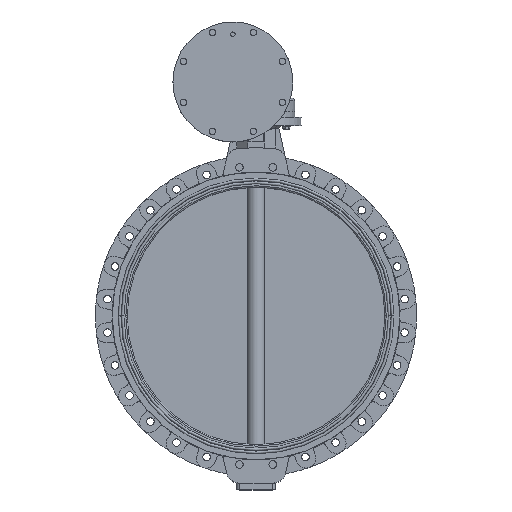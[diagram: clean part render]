
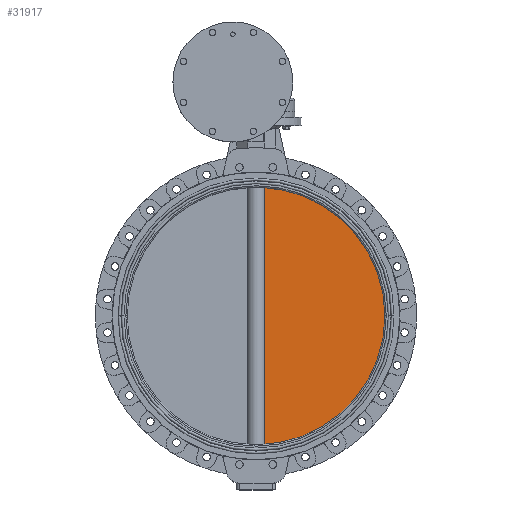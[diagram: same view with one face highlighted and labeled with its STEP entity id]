
A CAD part, top view. The second image highlights one B-rep face of the part: STEP entity #31917.
In plain terms, the highlighted planar face has unit normal (0, 0, 1).
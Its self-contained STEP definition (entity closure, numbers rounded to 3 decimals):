
#2157 = ORIENTED_EDGE ( 'NONE', *, *, #7185, .F. ) ;
#4485 = AXIS2_PLACEMENT_3D ( 'NONE', #22495, #31122, #34477 ) ;
#6521 = DIRECTION ( 'NONE',  ( -1., 0., 0. ) ) ;
#7185 = EDGE_CURVE ( 'NONE', #22564, #35658, #25325, .T. ) ;
#7564 = VECTOR ( 'NONE', #32741, 1000. ) ;
#8901 = DIRECTION ( 'NONE',  ( 0., 0., -1. ) ) ;
#9112 = CARTESIAN_POINT ( 'NONE',  ( 32.692, 880.001, 12.5 ) ) ;
#9856 = EDGE_CURVE ( 'NONE', #35658, #37161, #36291, .T. ) ;
#12598 = DIRECTION ( 'NONE',  ( 0., 0., -1. ) ) ;
#13734 = CARTESIAN_POINT ( 'NONE',  ( 500., 0., 12.5 ) ) ;
#15397 = AXIS2_PLACEMENT_3D ( 'NONE', #22533, #12598, #6521 ) ;
#17355 = LINE ( 'NONE', #27067, #7564 ) ;
#18821 = FACE_OUTER_BOUND ( 'NONE', #30220, .T. ) ;
#22214 = DIRECTION ( 'NONE',  ( -1., 0., 0. ) ) ;
#22495 = CARTESIAN_POINT ( 'NONE',  ( 0., 0., 12.5 ) ) ;
#22533 = CARTESIAN_POINT ( 'NONE',  ( 0., 0., 12.5 ) ) ;
#22564 = VERTEX_POINT ( 'NONE', #40022 ) ;
#22884 = AXIS2_PLACEMENT_3D ( 'NONE', #9112, #8901, #22214 ) ;
#23412 = ORIENTED_EDGE ( 'NONE', *, *, #33174, .T. ) ;
#23746 = ORIENTED_EDGE ( 'NONE', *, *, #9856, .F. ) ;
#25325 = CIRCLE ( 'NONE', #4485, 500. ) ;
#27067 = CARTESIAN_POINT ( 'NONE',  ( 32.692, 880.001, 12.5 ) ) ;
#27431 = CARTESIAN_POINT ( 'NONE',  ( 32.692, -498.93, 12.5 ) ) ;
#30220 = EDGE_LOOP ( 'NONE', ( #2157, #23412, #23746 ) ) ;
#31122 = DIRECTION ( 'NONE',  ( 0., 0., -1. ) ) ;
#31917 = ADVANCED_FACE ( 'NONE', ( #18821 ), #38213, .F. ) ;
#32741 = DIRECTION ( 'NONE',  ( 0., -1., 0. ) ) ;
#33174 = EDGE_CURVE ( 'NONE', #22564, #37161, #17355, .T. ) ;
#34477 = DIRECTION ( 'NONE',  ( -1., 0., 0. ) ) ;
#35658 = VERTEX_POINT ( 'NONE', #13734 ) ;
#36291 = CIRCLE ( 'NONE', #15397, 500. ) ;
#37161 = VERTEX_POINT ( 'NONE', #27431 ) ;
#38213 = PLANE ( 'NONE',  #22884 ) ;
#40022 = CARTESIAN_POINT ( 'NONE',  ( 32.692, 498.93, 12.5 ) ) ;
